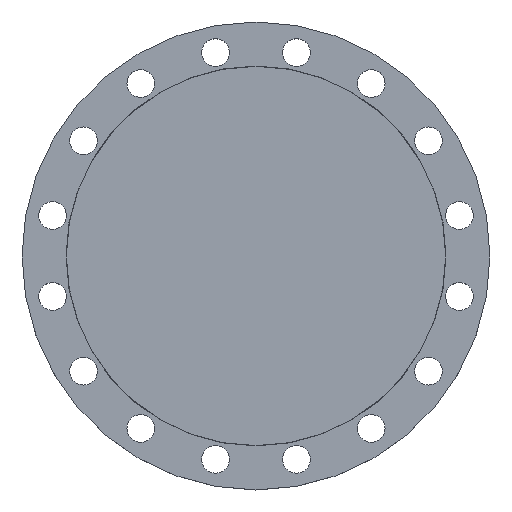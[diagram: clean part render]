
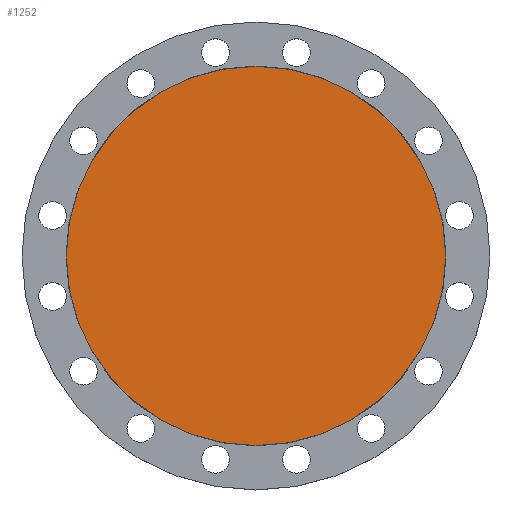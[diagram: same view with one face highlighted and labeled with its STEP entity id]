
A CAD part, top view. The second image highlights one B-rep face of the part: STEP entity #1252.
In plain terms, the highlighted planar face has unit normal (0, 0, 1).
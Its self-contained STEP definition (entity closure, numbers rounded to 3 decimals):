
#277 = CARTESIAN_POINT ( 'NONE',  ( -267.5, 0., 0. ) ) ;
#417 = DIRECTION ( 'NONE',  ( 1., 0., 0. ) ) ;
#418 = DIRECTION ( 'NONE',  ( 0., 0., 1. ) ) ;
#419 = CARTESIAN_POINT ( 'NONE',  ( 0., 0., 0. ) ) ;
#420 = PLANE ( 'NONE',  #1271 ) ;
#421 = FACE_OUTER_BOUND ( 'NONE', #1040, .T. ) ;
#482 = CARTESIAN_POINT ( 'NONE',  ( 267.5, 0., 0. ) ) ;
#493 = DIRECTION ( 'NONE',  ( -1., 0., 0. ) ) ;
#494 = DIRECTION ( 'NONE',  ( 0., 0., -1. ) ) ;
#496 = CARTESIAN_POINT ( 'NONE',  ( 0., 0., 0. ) ) ;
#708 = DIRECTION ( 'NONE',  ( -1., 0., 0. ) ) ;
#709 = DIRECTION ( 'NONE',  ( 0., 0., -1. ) ) ;
#712 = CARTESIAN_POINT ( 'NONE',  ( 0., 0., 0. ) ) ;
#807 = EDGE_CURVE ( 'NONE', #1330, #1208, #1091, .T. ) ;
#1040 = EDGE_LOOP ( 'NONE', ( #1531, #1532 ) ) ;
#1083 = AXIS2_PLACEMENT_3D ( 'NONE', #712, #709, #708 ) ;
#1091 = CIRCLE ( 'NONE', #1083, 267.5 ) ;
#1187 = EDGE_CURVE ( 'NONE', #1208, #1330, #1235, .T. ) ;
#1208 = VERTEX_POINT ( 'NONE', #482 ) ;
#1235 = CIRCLE ( 'NONE', #1237, 267.5 ) ;
#1237 = AXIS2_PLACEMENT_3D ( 'NONE', #496, #494, #493 ) ;
#1252 = ADVANCED_FACE ( 'NONE', ( #421 ), #420, .T. ) ;
#1271 = AXIS2_PLACEMENT_3D ( 'NONE', #419, #418, #417 ) ;
#1330 = VERTEX_POINT ( 'NONE', #277 ) ;
#1531 = ORIENTED_EDGE ( 'NONE', *, *, #807, .F. ) ;
#1532 = ORIENTED_EDGE ( 'NONE', *, *, #1187, .F. ) ;
